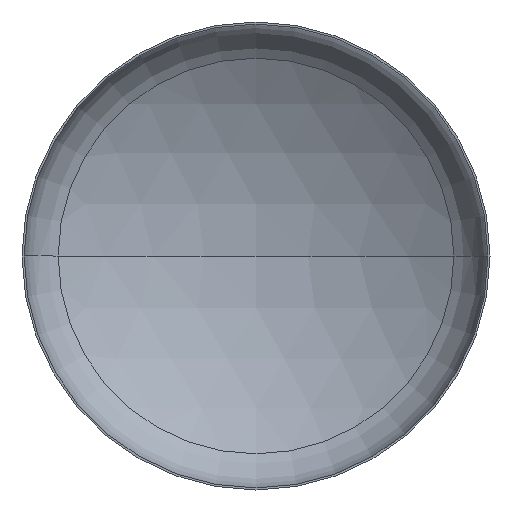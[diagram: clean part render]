
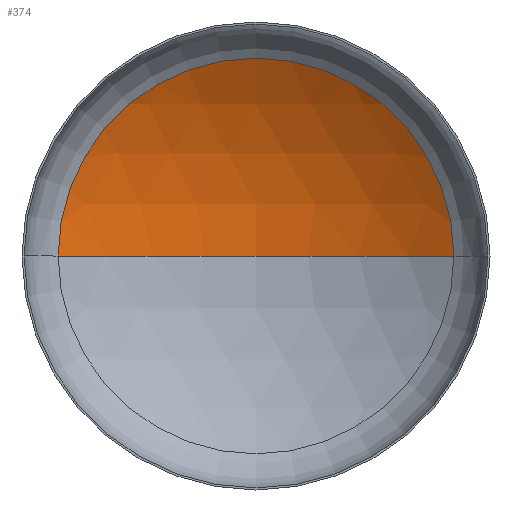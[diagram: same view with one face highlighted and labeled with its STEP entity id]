
A CAD part, front view. The second image highlights one B-rep face of the part: STEP entity #374.
In plain terms, the highlighted spherical face has radius 3600 mm.
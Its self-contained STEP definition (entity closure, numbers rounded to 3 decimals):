
#8 = EDGE_LOOP ( 'NONE', ( #84, #93, #39 ) ) ;
#31 = AXIS2_PLACEMENT_3D ( 'NONE', #209, #377, #166 ) ;
#35 = AXIS2_PLACEMENT_3D ( 'NONE', #134, #306, #309 ) ;
#39 = ORIENTED_EDGE ( 'NONE', *, *, #336, .T. ) ;
#43 = AXIS2_PLACEMENT_3D ( 'NONE', #165, #179, #169 ) ;
#67 = VERTEX_POINT ( 'NONE', #278 ) ;
#78 = VERTEX_POINT ( 'NONE', #256 ) ;
#84 = ORIENTED_EDGE ( 'NONE', *, *, #344, .F. ) ;
#93 = ORIENTED_EDGE ( 'NONE', *, *, #342, .T. ) ;
#95 = VERTEX_POINT ( 'NONE', #373 ) ;
#128 = DIRECTION ( 'NONE',  ( 0., 0., -1. ) ) ;
#134 = CARTESIAN_POINT ( 'NONE',  ( 0., -2406.333, 0. ) ) ;
#150 = CARTESIAN_POINT ( 'NONE',  ( 0., -2406.333, 0. ) ) ;
#162 = SPHERICAL_SURFACE ( 'NONE', #386, 3600. ) ;
#165 = CARTESIAN_POINT ( 'NONE',  ( 0., 650.052, 0. ) ) ;
#166 = DIRECTION ( 'NONE',  ( 1., 0., 0. ) ) ;
#169 = DIRECTION ( 'NONE',  ( 1., 0., 0. ) ) ;
#179 = DIRECTION ( 'NONE',  ( 0., -1., 0. ) ) ;
#209 = CARTESIAN_POINT ( 'NONE',  ( 0., -2406.333, 0. ) ) ;
#235 = CIRCLE ( 'NONE', #35, 3600. ) ;
#256 = CARTESIAN_POINT ( 'NONE',  ( 0., 1193.667, 0. ) ) ;
#278 = CARTESIAN_POINT ( 'NONE',  ( -1902.238, 650.052, 0. ) ) ;
#291 = CIRCLE ( 'NONE', #31, 3600. ) ;
#292 = DIRECTION ( 'NONE',  ( -1., 0., 0. ) ) ;
#306 = DIRECTION ( 'NONE',  ( 0., 0., -1. ) ) ;
#309 = DIRECTION ( 'NONE',  ( -1., 0., 0. ) ) ;
#336 = EDGE_CURVE ( 'NONE', #95, #67, #410, .T. ) ;
#342 = EDGE_CURVE ( 'NONE', #78, #95, #235, .T. ) ;
#344 = EDGE_CURVE ( 'NONE', #78, #67, #291, .T. ) ;
#373 = CARTESIAN_POINT ( 'NONE',  ( 1902.238, 650.052, 0. ) ) ;
#374 = ADVANCED_FACE ( 'NONE', ( #406 ), #162, .F. ) ;
#377 = DIRECTION ( 'NONE',  ( 0., 0., 1. ) ) ;
#386 = AXIS2_PLACEMENT_3D ( 'NONE', #150, #128, #292 ) ;
#406 = FACE_OUTER_BOUND ( 'NONE', #8, .T. ) ;
#410 = CIRCLE ( 'NONE', #43, 1902.238 ) ;
